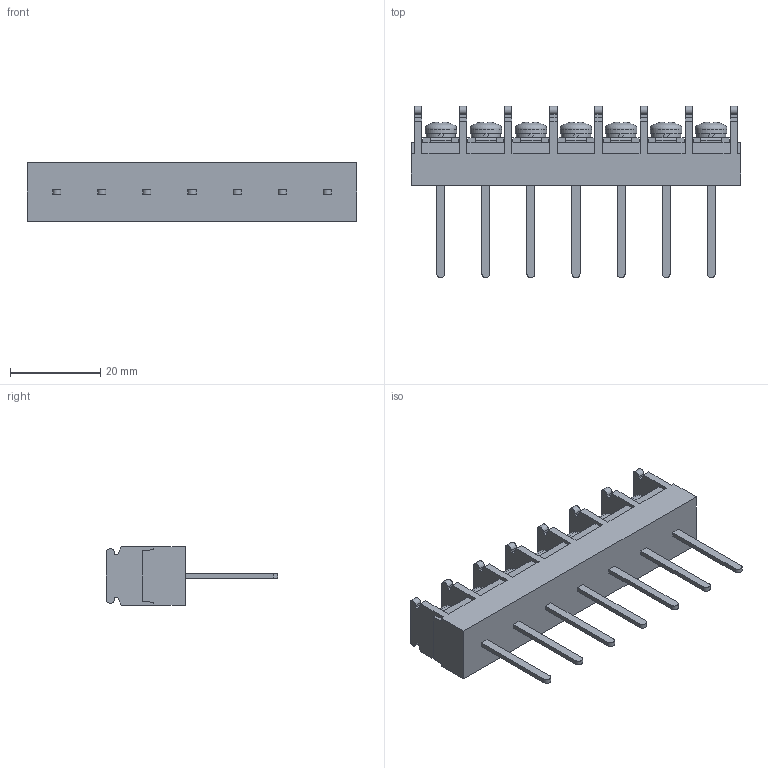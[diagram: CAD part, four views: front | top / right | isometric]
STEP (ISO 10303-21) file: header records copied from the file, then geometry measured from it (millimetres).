
FILE_DESCRIPTION(/* description */ ('Alibre Inc.'),/* implementation_level */ '2;1');
FILE_NAME(/* name */ 'export0',/* time_stamp */ '2015-10-17T19:24:49+09:00',/* author */ (''),/* organization */ (''),/* preprocessor_version */ 'ST-DEVELOPER v14',/* originating_system */ 'Alibre',/* authorisation */ '');
FILE_SCHEMA (('CONFIG_CONTROL_DESIGN'));
Length unit declared in the file: centimetre
Products named in the file (1): ID_1
Bounding box: 73 x 38 x 13 mm (x, y, z)
Volume: 11436.5 mm3; surface area: 7212.8 mm2
Topology: 1 solids, 17 shells, 845 faces, 2289 edges, 1519 vertices
Faces by surface type: plane 634, bspline 104, cylinder 58, cone 28, torus 14, sphere 7
Full cylindrical faces by diameter (mm): 4 x7, 6.5 x7, 7 x7
Entity records: 25728 total; most frequent: CARTESIAN_POINT 5745, ORIENTED_EDGE 4480, DIRECTION 3146, EDGE_CURVE 2240, VECTOR 1664, LINE 1664, VERTEX_POINT 1498, AXIS2_PLACEMENT_3D 1055
